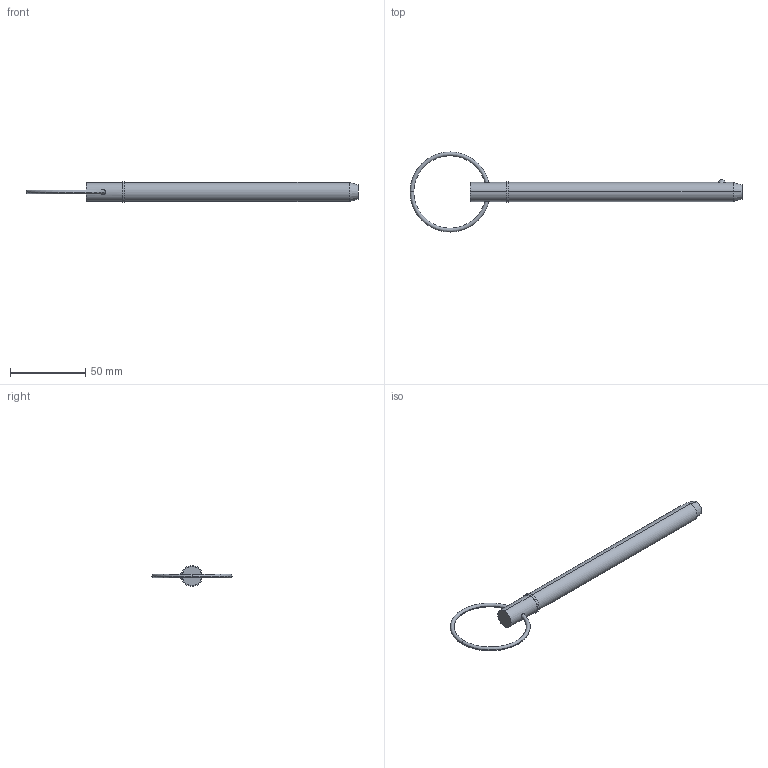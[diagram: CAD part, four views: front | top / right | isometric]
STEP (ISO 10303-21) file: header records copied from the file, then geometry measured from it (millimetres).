
FILE_DESCRIPTION (( 'STEP AP203' ), '1' );
FILE_NAME ('33016.W5055.step', '2024-11-07T11:09:48', ( '' ), ( '' ), 'SwSTEP 2.0', 'SolidWorks 2019', '' );
FILE_SCHEMA (( 'CONFIG_CONTROL_DESIGN' ));
Length unit declared in the file: millimetre
Products named in the file (3): Part1_33016.W5055; 33016.W5055; Part2_33016.W5055
Assembly tree (2 placements, depth 2):
  33016.W5055
    Part1_33016.W5055
    Part2_33016.W5055
Bounding box: 221.33 x 53.34 x 13.97 mm (x, y, z)
Volume: 23553.8 mm3; surface area: 8862.2 mm2
Topology: 2 solids, 2 shells, 22 faces, 43 edges, 26 vertices
Faces by surface type: torus 8, cylinder 6, plane 4, sphere 2, cone 2
Entity records: 1039 total; most frequent: CARTESIAN_POINT 262, DIRECTION 120, ORIENTED_EDGE 86, AXIS2_PLACEMENT_3D 56, EDGE_CURVE 43, CIRCLE 29, EDGE_LOOP 27, VERTEX_POINT 26
